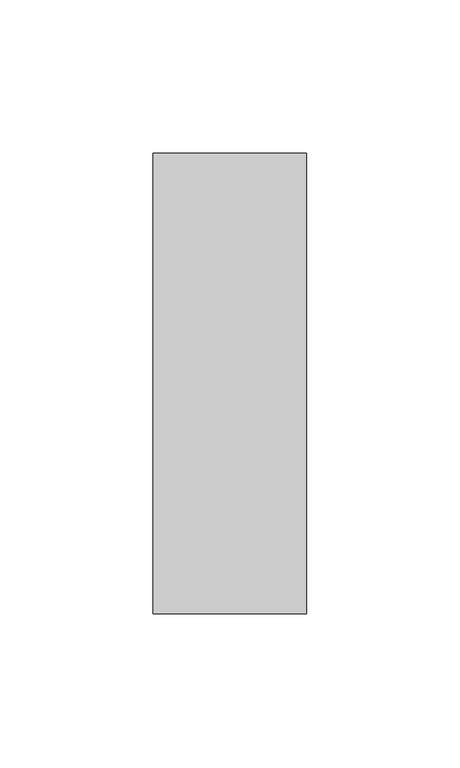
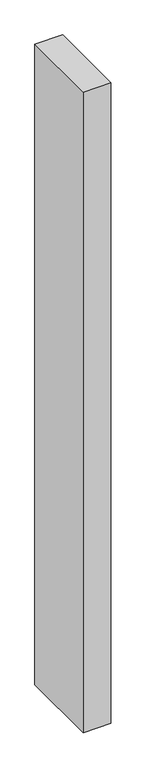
"""IFC4 building model written with IfcOpenShell, lengths in millimetres: member geometry, Прямоугольный импост : 50 x 150 мм."""

import ifcopenshell
import ifcopenshell.guid

model = None  # the IFC model being written
_history = None  # IfcOwnerHistory: only IFC2X3 demands one
_inside = {}  # id of a spatial element -> (the spatial element, [elements in it])
_under = {}  # id of a project, library or spatial element -> (it, [spatial elements below it])
_declared = {}  # id of a project -> (the project, [libraries it declares])
_typed = {}  # id of a type object -> (the type object, [elements of that type])
_made_of = {}  # id of a material, layer set ... -> (it, [elements and type objects made of it])


def new_model(schema):
    """Start an empty IFC model of exactly this schema.

    Asked for "IFC4X3", IfcOpenShell would pick the latest addendum, in which some entities
    have other attributes; the version numbers below select the first issue.
    IFC2X3 requires an IfcOwnerHistory on every rooted entity: one is made here for all.
    """
    global model, _history
    if schema == "IFC4X3":
        model = ifcopenshell.file(schema_version=(4, 3, 0, 0))
    else:
        model = ifcopenshell.file(schema=schema)
    _inside.clear()
    _under.clear()
    _declared.clear()
    _typed.clear()
    _made_of.clear()
    _history = None
    if model.schema == "IFC2X3":
        org = make("IfcOrganization", Name="unknown")
        user = make(
            "IfcPersonAndOrganization",
            ThePerson=make("IfcPerson", FamilyName="unknown"),
            TheOrganization=org,
        )
        app = make(
            "IfcApplication",
            ApplicationDeveloper=org,
            Version="unknown",
            ApplicationFullName="unknown",
            ApplicationIdentifier="unknown",
        )
        _history = make(
            "IfcOwnerHistory",
            OwningUser=user,
            OwningApplication=app,
            ChangeAction="ADDED",
            CreationDate=0,
        )
    return model


def make(cls, **values):
    """One entity of the class cls with the attributes given. An attribute that is None is left unset."""
    return model.create_entity(
        cls, **{name: value for name, value in values.items() if value is not None}
    )


def rooted(cls, **values):
    """An entity with a GlobalId (a new one), such as an element, a storey or a relation."""
    return make(cls, GlobalId=ifcopenshell.guid.new(), OwnerHistory=_history, **values)


def si_unit(unit_type, name, prefix=None):
    """IfcSIUnit, for example si_unit("LENGTHUNIT", "METRE", prefix="MILLI")."""
    return make("IfcSIUnit", UnitType=unit_type, Prefix=prefix, Name=name)


def assignment(units):
    """IfcUnitAssignment: the units of a project."""
    return None if units is None else make("IfcUnitAssignment", Units=units)


def point(xyz):
    """IfcCartesianPoint."""
    return None if xyz is None else make("IfcCartesianPoint", Coordinates=xyz)


def direction(xyz):
    """IfcDirection."""
    return None if xyz is None else make("IfcDirection", DirectionRatios=xyz)


def frame(location, z_axis=None, x_axis=None):
    """IfcAxis2Placement3D, a coordinate frame: its origin and axes. An axis left out is left unset."""
    return make(
        "IfcAxis2Placement3D",
        Location=point(location),
        Axis=direction(z_axis),
        RefDirection=direction(x_axis),
    )


def origin():
    """The frame at (0, 0, 0) with its axes left unset."""
    return frame((0.0, 0.0, 0.0))


def place(relative_to, where):
    """IfcLocalPlacement: puts the frame where relative to a parent placement (None: the world)."""
    return make(
        "IfcLocalPlacement", PlacementRelTo=relative_to, RelativePlacement=where
    )


def context(
    kind, dimensions, precision=None, world=None, true_north=None, identifier=None
):
    """IfcGeometricRepresentationContext, for example the 3D "Model" context."""
    return make(
        "IfcGeometricRepresentationContext",
        ContextIdentifier=identifier,
        ContextType=kind,
        CoordinateSpaceDimension=dimensions,
        Precision=precision,
        WorldCoordinateSystem=world,
        TrueNorth=true_north,
    )


def project(units=None, contexts=None):
    """IfcProject with its units and contexts."""
    return rooted(
        "IfcProject",
        Name="project",
        RepresentationContexts=contexts,
        UnitsInContext=assignment(units),
    )


def spatial(cls, under=None, at=None, **own):
    """A site, building, storey or space (cls), placed at a placement, below another one or the project."""
    s = rooted(cls, ObjectPlacement=at, **own)
    if under is not None:
        _under.setdefault(under.id(), (under, []))[1].append(s)
    return s


def polyline(points):
    """IfcPolyline through the points."""
    return make("IfcPolyline", Points=[point(p) for p in points])


def outline(outer, holes=None, kind="AREA"):
    """IfcArbitraryClosedProfileDef: a profile drawn as a closed curve; with holes, ...WithVoids."""
    if holes is None:
        return make("IfcArbitraryClosedProfileDef", ProfileType=kind, OuterCurve=outer)
    return make(
        "IfcArbitraryProfileDefWithVoids",
        ProfileType=kind,
        OuterCurve=outer,
        InnerCurves=holes,
    )


def extrude(swept, where, along, depth):
    """IfcExtrudedAreaSolid: the profile swept, set in the frame where, extruded along a direction by depth."""
    return make(
        "IfcExtrudedAreaSolid",
        SweptArea=swept,
        Position=where,
        ExtrudedDirection=direction(along),
        Depth=depth,
    )


def shape(context_of_items, identifier, shape_type, items):
    """IfcShapeRepresentation: the items that make up one representation, for example the "Body"."""
    return make(
        "IfcShapeRepresentation",
        ContextOfItems=context_of_items,
        RepresentationIdentifier=identifier,
        RepresentationType=shape_type,
        Items=items,
    )


def source(mapping_origin, context_of_items, identifier, shape_type, items):
    """IfcRepresentationMap: a shape defined once, which mapped items show again and again."""
    return make(
        "IfcRepresentationMap",
        MappingOrigin=mapping_origin,
        MappedRepresentation=shape(context_of_items, identifier, shape_type, items),
    )


def transform(
    local_origin,
    x_axis=None,
    y_axis=None,
    z_axis=None,
    scale=None,
    scale2=None,
    scale3=None,
    uniform=True,
):
    """IfcCartesianTransformationOperator3D, or its non-uniform kind. x_axis, y_axis, z_axis: its Axis1, 2, 3."""
    if uniform:
        return make(
            "IfcCartesianTransformationOperator3D",
            Axis1=direction(x_axis),
            Axis2=direction(y_axis),
            LocalOrigin=point(local_origin),
            Scale=scale,
            Axis3=direction(z_axis),
        )
    return make(
        "IfcCartesianTransformationOperator3DnonUniform",
        Axis1=direction(x_axis),
        Axis2=direction(y_axis),
        LocalOrigin=point(local_origin),
        Scale=scale,
        Axis3=direction(z_axis),
        Scale2=scale2,
        Scale3=scale3,
    )


def mapped(mapping_source, mapping_target):
    """IfcMappedItem: shows the shape of a source again, moved by a transform."""
    return make(
        "IfcMappedItem", MappingSource=mapping_source, MappingTarget=mapping_target
    )


def made_of(thing, what):
    """Note that an element or type object is made of a material, layer set ...; save() writes the relation."""
    if what is not None:
        _made_of.setdefault(what.id(), (what, []))[1].append(thing)
    return thing


def element(
    cls,
    number,
    at=None,
    inside=None,
    cuts=None,
    type_object=None,
    material=None,
    context=None,
    identifier="Body",
    shape_type=None,
    held_by="IfcProductDefinitionShape",
    body=None,
    shapes=None,
    **own,
):
    """One element of the class cls, such as IfcWall. Its Tag is "e" and its number.

    at: its placement. inside: the storey or other place that contains it. cuts: it is an
    opening in that element (IfcRelVoidsElement). A single representation is given by context,
    identifier, shape_type and body (its items); several are given by shapes. held_by: the class
    of the entity that holds the representations. save() writes the other relations.
    """
    e = rooted(cls, Tag="e%d" % number, ObjectPlacement=at, **own)
    if body is not None:
        shapes = [shape(context, identifier, shape_type, body)]
    if shapes is not None:
        e.Representation = make(held_by, Representations=shapes)
    if inside is not None:
        _inside.setdefault(inside.id(), (inside, []))[1].append(e)
    if cuts is not None:
        rooted(
            "IfcRelVoidsElement", RelatingBuildingElement=cuts, RelatedOpeningElement=e
        )
    if type_object is not None:
        _typed.setdefault(type_object.id(), (type_object, []))[1].append(e)
    return made_of(e, material)


def aggregate(whole, parts):
    """IfcRelAggregates: a whole, such as a stair, and the parts it consists of."""
    return rooted("IfcRelAggregates", RelatingObject=whole, RelatedObjects=parts)


def save(model, path):
    """Write the relations noted so far, then the file.

    IfcRelAggregates (storeys below a building ...), IfcRelContainedInSpatialStructure (elements
    in a storey), IfcRelDefinesByType, IfcRelAssociatesMaterial and IfcRelDeclares: one each for
    every whole, place, type object, material and project.
    """
    for whole, parts in _under.values():
        aggregate(whole, parts)
    for where, things in _inside.values():
        rooted(
            "IfcRelContainedInSpatialStructure",
            RelatedElements=things,
            RelatingStructure=where,
        )
    for kind, things in _typed.values():
        rooted("IfcRelDefinesByType", RelatedObjects=things, RelatingType=kind)
    for what, things in _made_of.values():
        rooted("IfcRelAssociatesMaterial", RelatedObjects=things, RelatingMaterial=what)
    for by, libraries in _declared.values():
        rooted("IfcRelDeclares", RelatingContext=by, RelatedDefinitions=libraries)
    model.write(path)


def member_1611bdb3(model_context):
    return source(origin(), model_context, "Body", "SweptSolid", [
        extrude(outline(polyline([(25.0, 75.0), (25.0, -75.0), (-25.0, -75.0), (-25.0, 75.0), (25.0, 75.0)])), frame((0.0, 0.0, -1217.1542885), z_axis=(0.0, 0.0, 1.0), x_axis=(1.0, 0.0, 0.0)), (0.0, 0.0, 1.0), 1217.1542885),
    ])


if __name__ == "__main__":
    model = new_model("IFC4")
    model_context = context("Model", 3, world=origin())
    ifc_project = project(units=[si_unit("LENGTHUNIT", "METRE", prefix="MILLI")], contexts=[model_context])
    site = spatial("IfcSite", under=ifc_project)
    building = spatial("IfcBuilding", under=site)
    placement = place(None, origin())
    member_shape = member_1611bdb3(model_context)
    element("IfcMember", 1, ObjectType="Прямоугольный импост : 50 x 150 мм", at=placement, inside=building, context=model_context, shape_type="MappedRepresentation", body=[
        mapped(member_shape, transform((0.0, 0.0, 0.0), x_axis=(1.0, 0.0, 0.0), y_axis=(0.0, 1.0, 0.0), z_axis=(0.0, 0.0, 1.0))),
    ])
    save(model, "model.ifc")
